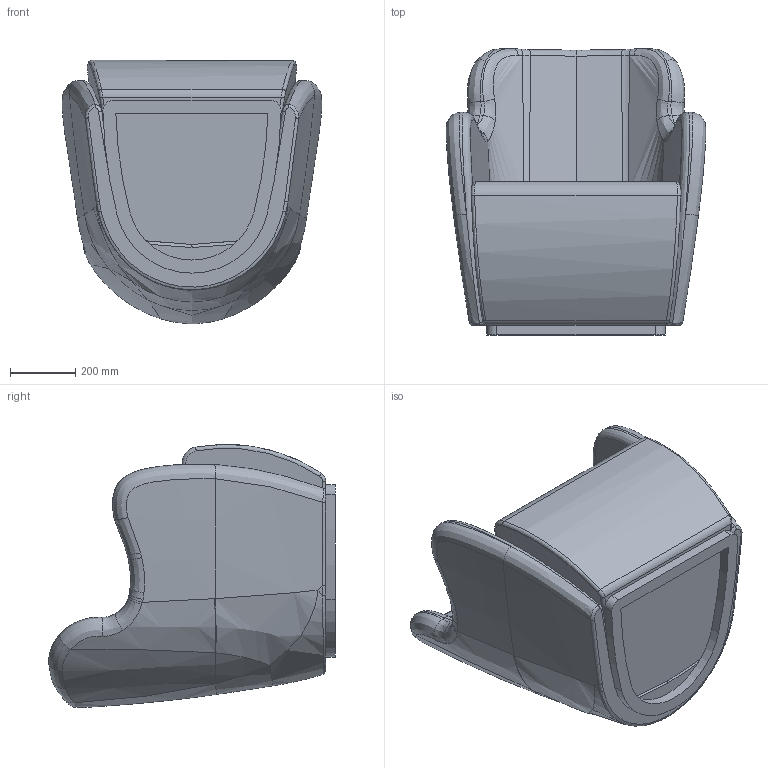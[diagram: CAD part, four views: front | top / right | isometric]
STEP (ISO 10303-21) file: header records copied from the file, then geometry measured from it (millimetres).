
FILE_DESCRIPTION (( 'STEP AP203' ), '1' );
FILE_NAME ('GIBSON PLUS low back (simple).STEP', '2026-07-14T07:43:02', ( '' ), ( '' ), 'SwSTEP 2.0', 'SolidWorks 2026', '' );
FILE_SCHEMA (( 'CONFIG_CONTROL_DESIGN' ));
Length unit declared in the file: millimetre
Products named in the file (1): GIBSON PLUS low back (simple)
Bounding box: 797.55 x 880.01 x 808.14 mm (x, y, z)
Volume: 235402421 mm3; surface area: 4494929.3 mm2
Topology: 3 solids, 3 shells, 176 faces, 449 edges, 279 vertices
Faces by surface type: bspline 142, cylinder 22, plane 12
Entity records: 25044 total; most frequent: CARTESIAN_POINT 21902, ORIENTED_EDGE 894, EDGE_CURVE 447, B_SPLINE_CURVE_WITH_KNOTS 325, VERTEX_POINT 279, DIRECTION 242, EDGE_LOOP 180, ADVANCED_FACE 176
